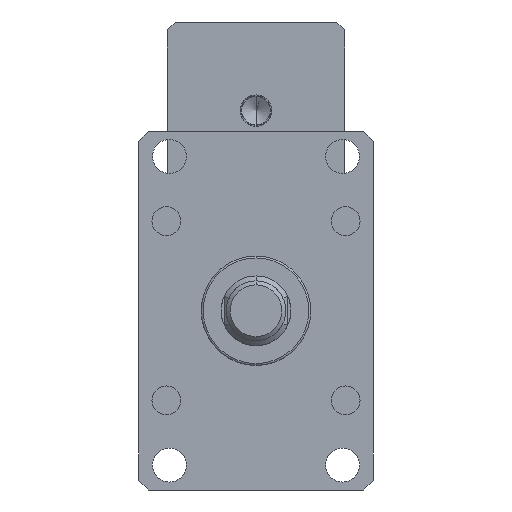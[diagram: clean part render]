
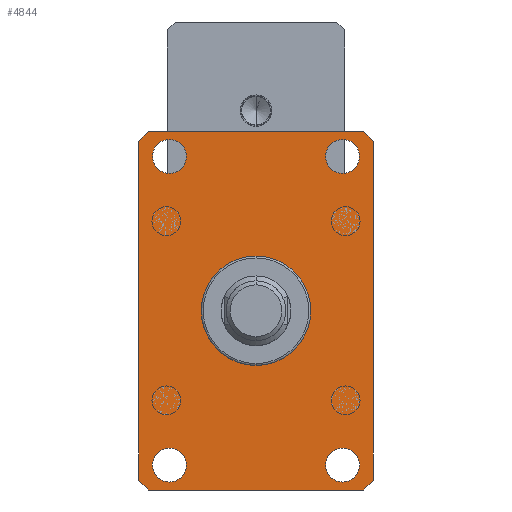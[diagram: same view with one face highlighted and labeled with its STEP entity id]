
A CAD part, front view. The second image highlights one B-rep face of the part: STEP entity #4844.
In plain terms, the highlighted planar face has unit normal (0, -1, 0).
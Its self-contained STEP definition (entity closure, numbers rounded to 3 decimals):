
#7 = ORIENTED_EDGE ( 'NONE', *, *, #9161, .T. ) ;
#49 = CARTESIAN_POINT ( 'NONE',  ( -59., -55., -85. ) ) ;
#88 = DIRECTION ( 'NONE',  ( 0., 0., -1. ) ) ;
#154 = DIRECTION ( 'NONE',  ( 0., -1., 0. ) ) ;
#253 = VERTEX_POINT ( 'NONE', #3010 ) ;
#273 = AXIS2_PLACEMENT_3D ( 'NONE', #11907, #6092, #88 ) ;
#302 = CIRCLE ( 'NONE', #4838, 8.5 ) ;
#349 = CARTESIAN_POINT ( 'NONE',  ( -43.5, -55., 77.5 ) ) ;
#390 = DIRECTION ( 'NONE',  ( -1., 0., 0. ) ) ;
#546 = LINE ( 'NONE', #9789, #8180 ) ;
#567 = CIRCLE ( 'NONE', #4507, 8.5 ) ;
#725 = DIRECTION ( 'NONE',  ( 0., 1., 0. ) ) ;
#836 = VERTEX_POINT ( 'NONE', #6846 ) ;
#851 = EDGE_CURVE ( 'NONE', #1048, #12463, #546, .T. ) ;
#870 = EDGE_CURVE ( 'NONE', #5436, #6843, #5584, .T. ) ;
#893 = CARTESIAN_POINT ( 'NONE',  ( 54., -55., 90. ) ) ;
#917 = PLANE ( 'NONE',  #4960 ) ;
#1048 = VERTEX_POINT ( 'NONE', #7383 ) ;
#1086 = EDGE_CURVE ( 'NONE', #10317, #5436, #8193, .T. ) ;
#1101 = AXIS2_PLACEMENT_3D ( 'NONE', #9970, #4102, #10936 ) ;
#1367 = DIRECTION ( 'NONE',  ( 0., 0., -1. ) ) ;
#1370 = CARTESIAN_POINT ( 'NONE',  ( 43.5, -55., -69. ) ) ;
#1632 = VECTOR ( 'NONE', #12038, 1000. ) ;
#1892 = CARTESIAN_POINT ( 'NONE',  ( 43.5, -55., -77.5 ) ) ;
#1960 = FACE_BOUND ( 'NONE', #11130, .T. ) ;
#2012 = VERTEX_POINT ( 'NONE', #3456 ) ;
#2068 = EDGE_CURVE ( 'NONE', #836, #4624, #11323, .T. ) ;
#2574 = ORIENTED_EDGE ( 'NONE', *, *, #5638, .T. ) ;
#2638 = DIRECTION ( 'NONE',  ( -0.707, 0., -0.707 ) ) ;
#2709 = VECTOR ( 'NONE', #2638, 1000. ) ;
#2838 = CARTESIAN_POINT ( 'NONE',  ( -54., -55., 90. ) ) ;
#2934 = DIRECTION ( 'NONE',  ( 0., 0., 1. ) ) ;
#3010 = CARTESIAN_POINT ( 'NONE',  ( -43.5, -55., 86. ) ) ;
#3085 = CIRCLE ( 'NONE', #7663, 8.5 ) ;
#3139 = AXIS2_PLACEMENT_3D ( 'NONE', #6161, #154, #7157 ) ;
#3173 = EDGE_LOOP ( 'NONE', ( #3700, #5380, #11678, #2574, #7833, #11001, #11609, #6130 ) ) ;
#3394 = VECTOR ( 'NONE', #8161, 1000. ) ;
#3456 = CARTESIAN_POINT ( 'NONE',  ( -43.5, -55., -86. ) ) ;
#3700 = ORIENTED_EDGE ( 'NONE', *, *, #870, .T. ) ;
#3722 = DIRECTION ( 'NONE',  ( 0., 1., 0. ) ) ;
#3761 = ORIENTED_EDGE ( 'NONE', *, *, #9176, .T. ) ;
#3884 = CARTESIAN_POINT ( 'NONE',  ( -43.5, -55., -69. ) ) ;
#3916 = DIRECTION ( 'NONE',  ( 0., 0., 1. ) ) ;
#3967 = DIRECTION ( 'NONE',  ( 0., 0., 1. ) ) ;
#4102 = DIRECTION ( 'NONE',  ( 0., -1., 0. ) ) ;
#4199 = CARTESIAN_POINT ( 'NONE',  ( -59., -55., 85. ) ) ;
#4210 = EDGE_LOOP ( 'NONE', ( #3761, #7 ) ) ;
#4331 = FACE_BOUND ( 'NONE', #4360, .T. ) ;
#4360 = EDGE_LOOP ( 'NONE', ( #12500, #5186 ) ) ;
#4507 = AXIS2_PLACEMENT_3D ( 'NONE', #5765, #12544, #6735 ) ;
#4624 = VERTEX_POINT ( 'NONE', #6603 ) ;
#4650 = CARTESIAN_POINT ( 'NONE',  ( -59., -55., -85. ) ) ;
#4698 = CARTESIAN_POINT ( 'NONE',  ( -54., -55., -90. ) ) ;
#4838 = AXIS2_PLACEMENT_3D ( 'NONE', #6710, #725, #7705 ) ;
#4844 = ADVANCED_FACE ( 'NONE', ( #1960, #11795, #4331, #9555, #9238 ), #917, .F. ) ;
#4918 = CARTESIAN_POINT ( 'NONE',  ( 59., -55., -90. ) ) ;
#4960 = AXIS2_PLACEMENT_3D ( 'NONE', #4918, #9847, #3967 ) ;
#5186 = ORIENTED_EDGE ( 'NONE', *, *, #10865, .T. ) ;
#5280 = VECTOR ( 'NONE', #5637, 1000. ) ;
#5380 = ORIENTED_EDGE ( 'NONE', *, *, #5888, .T. ) ;
#5436 = VERTEX_POINT ( 'NONE', #4698 ) ;
#5584 = LINE ( 'NONE', #11706, #5898 ) ;
#5637 = DIRECTION ( 'NONE',  ( 0.707, 0., -0.707 ) ) ;
#5638 = EDGE_CURVE ( 'NONE', #12463, #11167, #11326, .T. ) ;
#5684 = CIRCLE ( 'NONE', #10425, 8.5 ) ;
#5765 = CARTESIAN_POINT ( 'NONE',  ( 43.5, -55., -77.5 ) ) ;
#5888 = EDGE_CURVE ( 'NONE', #6843, #1048, #6929, .T. ) ;
#5898 = VECTOR ( 'NONE', #12681, 1000. ) ;
#6027 = LINE ( 'NONE', #4199, #3394 ) ;
#6092 = DIRECTION ( 'NONE',  ( 0., -1., 0. ) ) ;
#6130 = ORIENTED_EDGE ( 'NONE', *, *, #1086, .T. ) ;
#6161 = CARTESIAN_POINT ( 'NONE',  ( -43.5, -55., 77.5 ) ) ;
#6383 = ORIENTED_EDGE ( 'NONE', *, *, #2068, .F. ) ;
#6389 = CARTESIAN_POINT ( 'NONE',  ( -54., -55., 90. ) ) ;
#6485 = AXIS2_PLACEMENT_3D ( 'NONE', #1892, #8842, #2934 ) ;
#6603 = CARTESIAN_POINT ( 'NONE',  ( 43.5, -55., 86. ) ) ;
#6710 = CARTESIAN_POINT ( 'NONE',  ( -43.5, -55., -77.5 ) ) ;
#6735 = DIRECTION ( 'NONE',  ( 0., 0., 1. ) ) ;
#6843 = VERTEX_POINT ( 'NONE', #11134 ) ;
#6846 = CARTESIAN_POINT ( 'NONE',  ( 43.5, -55., 69. ) ) ;
#6929 = LINE ( 'NONE', #10044, #1632 ) ;
#7157 = DIRECTION ( 'NONE',  ( 0., 0., -1. ) ) ;
#7179 = VERTEX_POINT ( 'NONE', #2838 ) ;
#7311 = VERTEX_POINT ( 'NONE', #8374 ) ;
#7336 = DIRECTION ( 'NONE',  ( 0., -1., 0. ) ) ;
#7383 = CARTESIAN_POINT ( 'NONE',  ( 59., -55., -85. ) ) ;
#7561 = EDGE_CURVE ( 'NONE', #253, #8690, #7935, .T. ) ;
#7663 = AXIS2_PLACEMENT_3D ( 'NONE', #349, #7336, #1367 ) ;
#7705 = DIRECTION ( 'NONE',  ( 0., 0., 1. ) ) ;
#7833 = ORIENTED_EDGE ( 'NONE', *, *, #10475, .T. ) ;
#7929 = EDGE_LOOP ( 'NONE', ( #12657, #6383 ) ) ;
#7935 = CIRCLE ( 'NONE', #3139, 8.5 ) ;
#8014 = VECTOR ( 'NONE', #390, 1000. ) ;
#8161 = DIRECTION ( 'NONE',  ( 0., 0., -1. ) ) ;
#8180 = VECTOR ( 'NONE', #3916, 1000. ) ;
#8193 = LINE ( 'NONE', #4650, #5280 ) ;
#8374 = CARTESIAN_POINT ( 'NONE',  ( 43.5, -55., -86. ) ) ;
#8389 = ORIENTED_EDGE ( 'NONE', *, *, #7561, .F. ) ;
#8607 = VERTEX_POINT ( 'NONE', #1370 ) ;
#8690 = VERTEX_POINT ( 'NONE', #11435 ) ;
#8794 = VECTOR ( 'NONE', #12502, 1000. ) ;
#8842 = DIRECTION ( 'NONE',  ( 0., 1., 0. ) ) ;
#9161 = EDGE_CURVE ( 'NONE', #7311, #8607, #567, .T. ) ;
#9176 = EDGE_CURVE ( 'NONE', #8607, #7311, #12728, .T. ) ;
#9238 = FACE_BOUND ( 'NONE', #7929, .T. ) ;
#9511 = VERTEX_POINT ( 'NONE', #3884 ) ;
#9555 = FACE_OUTER_BOUND ( 'NONE', #3173, .T. ) ;
#9598 = CARTESIAN_POINT ( 'NONE',  ( -43.5, -55., -77.5 ) ) ;
#9789 = CARTESIAN_POINT ( 'NONE',  ( 59., -55., 85. ) ) ;
#9847 = DIRECTION ( 'NONE',  ( 0., 1., 0. ) ) ;
#9970 = CARTESIAN_POINT ( 'NONE',  ( 43.5, -55., 77.5 ) ) ;
#10044 = CARTESIAN_POINT ( 'NONE',  ( 54., -55., -90. ) ) ;
#10159 = CARTESIAN_POINT ( 'NONE',  ( 54., -55., 90. ) ) ;
#10317 = VERTEX_POINT ( 'NONE', #49 ) ;
#10337 = EDGE_CURVE ( 'NONE', #4624, #836, #11793, .T. ) ;
#10410 = EDGE_CURVE ( 'NONE', #12356, #10317, #6027, .T. ) ;
#10425 = AXIS2_PLACEMENT_3D ( 'NONE', #9598, #3722, #10572 ) ;
#10456 = EDGE_CURVE ( 'NONE', #8690, #253, #3085, .T. ) ;
#10475 = EDGE_CURVE ( 'NONE', #11167, #7179, #10620, .T. ) ;
#10549 = LINE ( 'NONE', #12466, #2709 ) ;
#10561 = CARTESIAN_POINT ( 'NONE',  ( -59., -55., 85. ) ) ;
#10572 = DIRECTION ( 'NONE',  ( 0., 0., 1. ) ) ;
#10620 = LINE ( 'NONE', #6389, #8014 ) ;
#10865 = EDGE_CURVE ( 'NONE', #2012, #9511, #5684, .T. ) ;
#10936 = DIRECTION ( 'NONE',  ( 0., 0., -1. ) ) ;
#11001 = ORIENTED_EDGE ( 'NONE', *, *, #11393, .T. ) ;
#11130 = EDGE_LOOP ( 'NONE', ( #8389, #12147 ) ) ;
#11134 = CARTESIAN_POINT ( 'NONE',  ( 54., -55., -90. ) ) ;
#11167 = VERTEX_POINT ( 'NONE', #10159 ) ;
#11323 = CIRCLE ( 'NONE', #1101, 8.5 ) ;
#11326 = LINE ( 'NONE', #893, #8794 ) ;
#11393 = EDGE_CURVE ( 'NONE', #7179, #12356, #10549, .T. ) ;
#11405 = EDGE_CURVE ( 'NONE', #9511, #2012, #302, .T. ) ;
#11435 = CARTESIAN_POINT ( 'NONE',  ( -43.5, -55., 69. ) ) ;
#11578 = CARTESIAN_POINT ( 'NONE',  ( 59., -55., 85. ) ) ;
#11609 = ORIENTED_EDGE ( 'NONE', *, *, #10410, .T. ) ;
#11678 = ORIENTED_EDGE ( 'NONE', *, *, #851, .T. ) ;
#11706 = CARTESIAN_POINT ( 'NONE',  ( -54., -55., -90. ) ) ;
#11793 = CIRCLE ( 'NONE', #273, 8.5 ) ;
#11795 = FACE_BOUND ( 'NONE', #4210, .T. ) ;
#11907 = CARTESIAN_POINT ( 'NONE',  ( 43.5, -55., 77.5 ) ) ;
#12038 = DIRECTION ( 'NONE',  ( 0.707, 0., 0.707 ) ) ;
#12147 = ORIENTED_EDGE ( 'NONE', *, *, #10456, .F. ) ;
#12356 = VERTEX_POINT ( 'NONE', #10561 ) ;
#12463 = VERTEX_POINT ( 'NONE', #11578 ) ;
#12466 = CARTESIAN_POINT ( 'NONE',  ( -59., -55., 85. ) ) ;
#12500 = ORIENTED_EDGE ( 'NONE', *, *, #11405, .T. ) ;
#12502 = DIRECTION ( 'NONE',  ( -0.707, 0., 0.707 ) ) ;
#12544 = DIRECTION ( 'NONE',  ( 0., 1., 0. ) ) ;
#12657 = ORIENTED_EDGE ( 'NONE', *, *, #10337, .F. ) ;
#12681 = DIRECTION ( 'NONE',  ( 1., 0., 0. ) ) ;
#12728 = CIRCLE ( 'NONE', #6485, 8.5 ) ;
